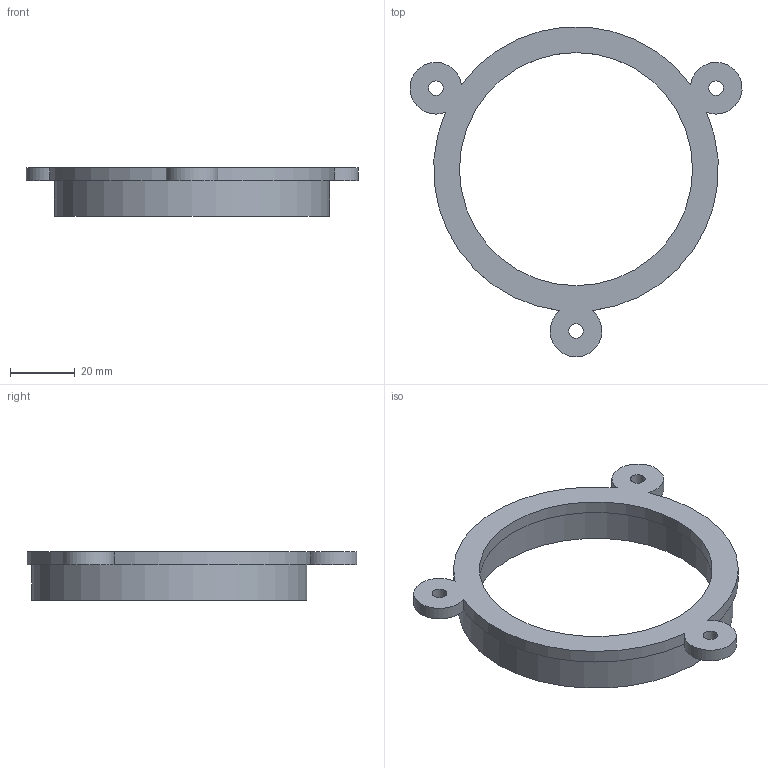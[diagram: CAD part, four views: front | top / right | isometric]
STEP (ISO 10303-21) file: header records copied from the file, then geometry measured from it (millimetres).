
FILE_DESCRIPTION(('Open CASCADE Model'),'2;1');
FILE_NAME('Open CASCADE Shape Model','2026-10-06T19:56:09',('Author'),( 'Open CASCADE'),'Open CASCADE STEP processor 7.9','Open CASCADE 7.9' ,'Unknown');
FILE_SCHEMA(('AUTOMOTIVE_DESIGN { 1 0 10303 214 1 1 1 1 }'));
Length unit declared in the file: millimetre
Products named in the file (1): Open CASCADE STEP translator 7.9 24
Bounding box: 102.56 x 101.81 x 15 mm (x, y, z)
Volume: 23275.4 mm3; surface area: 13133.7 mm2
Topology: 1 solids, 1 shells, 16 faces, 36 edges, 24 vertices
Faces by surface type: cylinder 12, plane 4
Full cylindrical faces by diameter (mm): 4.5 x3, 72 x1, 75.5 x1, 85 x1
Entity records: 970 total; most frequent: CARTESIAN_POINT 209, DIRECTION 146, ORIENTED_EDGE 72, PCURVE 72, DEFINITIONAL_REPRESENTATION 72, LINE 48, VECTOR 48, AXIS2_PLACEMENT_3D 41
